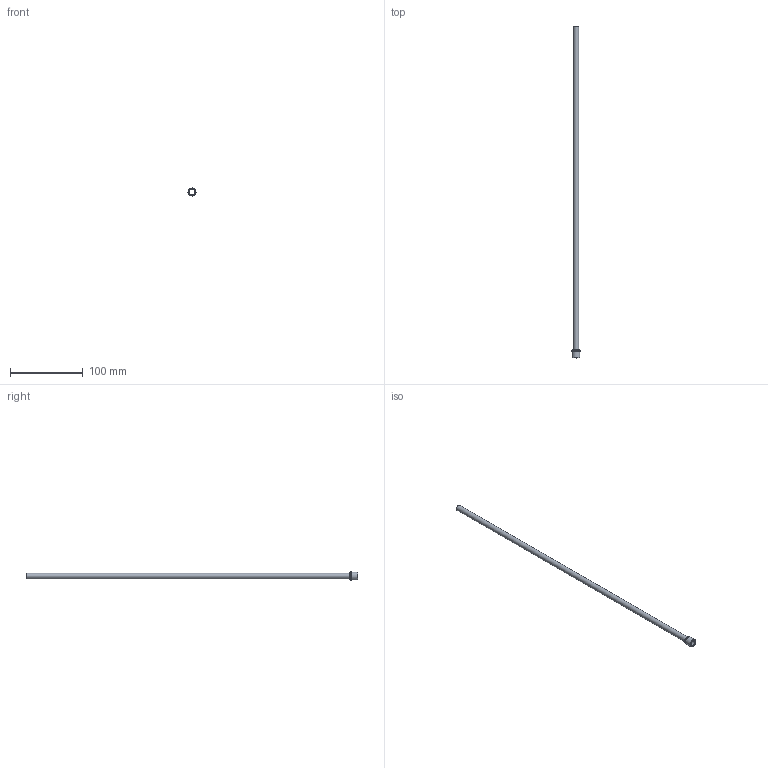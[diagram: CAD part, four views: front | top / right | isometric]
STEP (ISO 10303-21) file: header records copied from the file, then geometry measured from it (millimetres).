
FILE_DESCRIPTION(/* description */ (''),/* implementation_level */ '2;1');
FILE_NAME(/* name */ 'C:/Users/drich/Desktop/JHF312T-18 v1.step',/* time_stamp */ '2020-01-02T20:01:41-06:00',/* author */ (''),/* organization */ (''),/* preprocessor_version */ 'ST-DEVELOPER v18',/* originating_system */ 'Autodesk Translation Framework v8.12.0.6',/* authorisation */ '');
FILE_SCHEMA (('AUTOMOTIVE_DESIGN { 1 0 10303 214 3 1 1 }'));
Length unit declared in the file: inch
Products named in the file (1): JHF312T-18
Bounding box: 11.15 x 457.2 x 11.15 mm (x, y, z)
Volume: 3846.2 mm3; surface area: 22096 mm2
Topology: 1 solids, 1 shells, 10 faces, 24 edges, 18 vertices
Faces by surface type: cylinder 4, plane 4, cone 1, torus 1
Full cylindrical faces by diameter (mm): 7.315 x1, 7.925 x1, 11.011 x1, 11.151 x1
Entity records: 354 total; most frequent: DIRECTION 65, CARTESIAN_POINT 53, ORIENTED_EDGE 48, AXIS2_PLACEMENT_3D 30, EDGE_CURVE 24, CIRCLE 19, VERTEX_POINT 18, EDGE_LOOP 14
